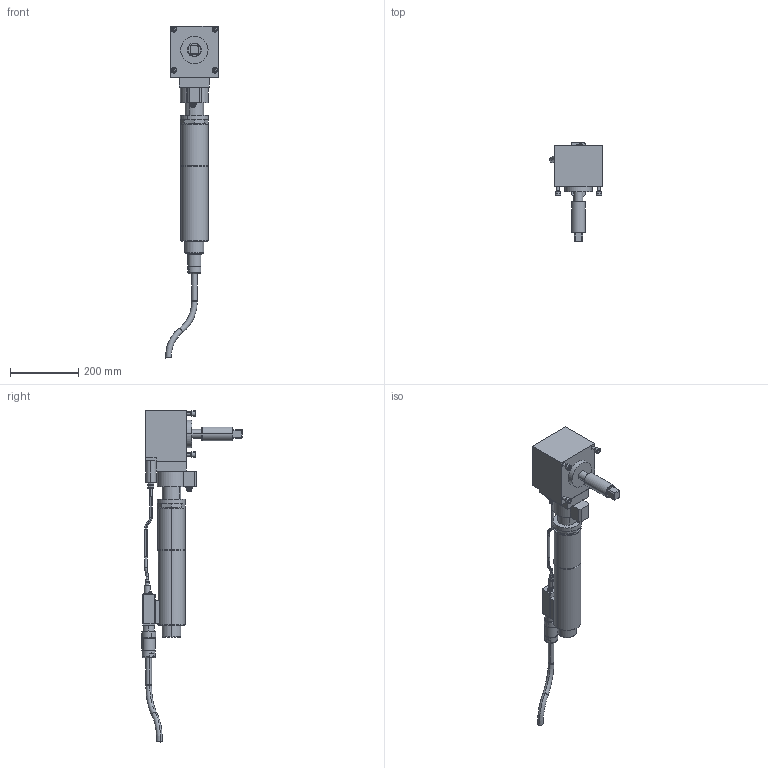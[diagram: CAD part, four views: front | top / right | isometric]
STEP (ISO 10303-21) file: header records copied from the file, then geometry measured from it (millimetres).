
FILE_DESCRIPTION(('CATIA V5 STEP'),'2;1');
FILE_NAME('O:\3D-Schrauber\stp\7920366_ECR334_DWR450_AWD325-700_AllCATPart.stp','2010-05-05T11:04:34+00:00',('none'),('none'),'CATIA Version 5 Release 19 SP 3 (IN-10)','CATIA V5 STEP AP214','none');
FILE_SCHEMA(('AUTOMOTIVE_DESIGN { 1 0 10303 214 1 1 1 1 }'));
Length unit declared in the file: millimetre
Products named in the file (1): 7920366_ECR334_DWR450_AWD325-700_AllCATPart
Bounding box: 153.82 x 293.28 x 971.86 mm (x, y, z)
Volume: 5760001.1 mm3; surface area: 402746.2 mm2
Topology: 20 solids, 20 shells, 475 faces, 1055 edges, 662 vertices
Faces by surface type: plane 202, cylinder 167, cone 64, torus 42
Entity records: 12435 total; most frequent: CARTESIAN_POINT 2442, ORIENTED_EDGE 2094, DIRECTION 1707, EDGE_CURVE 1047, AXIS2_PLACEMENT_3D 849, VERTEX_POINT 662, EDGE_LOOP 525, VECTOR 505
